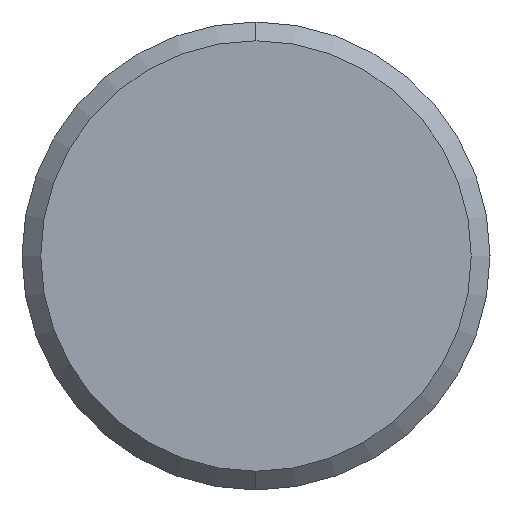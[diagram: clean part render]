
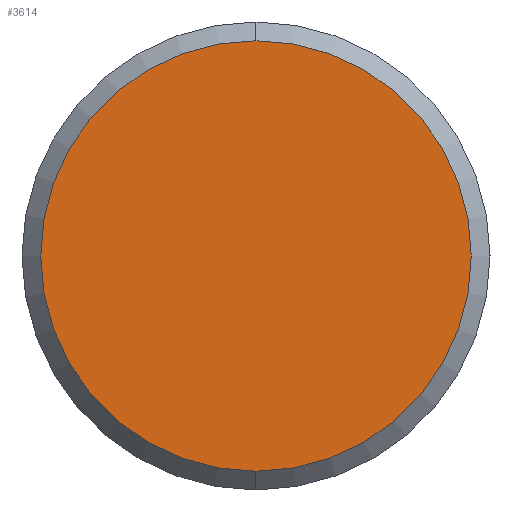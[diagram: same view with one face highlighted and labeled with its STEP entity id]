
A CAD part, left-side view. The second image highlights one B-rep face of the part: STEP entity #3614.
In plain terms, the highlighted planar face has unit normal (-1, 0, 0).
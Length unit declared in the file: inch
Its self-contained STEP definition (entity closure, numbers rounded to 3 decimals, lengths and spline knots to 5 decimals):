
#94 = CARTESIAN_POINT ( 'NONE',  ( 0., 0., 0. ) ) ;
#267 = CARTESIAN_POINT ( 'NONE',  ( 0., 0., 0. ) ) ;
#636 = VERTEX_POINT ( 'NONE', #1812 ) ;
#892 = AXIS2_PLACEMENT_3D ( 'NONE', #94, #2437, #3625 ) ;
#1008 = AXIS2_PLACEMENT_3D ( 'NONE', #267, #2373, #1456 ) ;
#1100 = EDGE_CURVE ( 'NONE', #636, #3777, #1631, .T. ) ;
#1102 = ORIENTED_EDGE ( 'NONE', *, *, #2259, .T. ) ;
#1305 = AXIS2_PLACEMENT_3D ( 'NONE', #1960, #3065, #2843 ) ;
#1308 = FACE_OUTER_BOUND ( 'NONE', #2075, .T. ) ;
#1456 = DIRECTION ( 'NONE',  ( 0., 0., 1. ) ) ;
#1631 = CIRCLE ( 'NONE', #1008, 0.17235 ) ;
#1812 = CARTESIAN_POINT ( 'NONE',  ( 0., 0., -0.17235 ) ) ;
#1820 = CIRCLE ( 'NONE', #892, 0.17235 ) ;
#1960 = CARTESIAN_POINT ( 'NONE',  ( 0., 0., 0. ) ) ;
#2075 = EDGE_LOOP ( 'NONE', ( #2872, #1102 ) ) ;
#2250 = PLANE ( 'NONE',  #1305 ) ;
#2259 = EDGE_CURVE ( 'NONE', #3777, #636, #1820, .T. ) ;
#2373 = DIRECTION ( 'NONE',  ( -1., 0., 0. ) ) ;
#2437 = DIRECTION ( 'NONE',  ( -1., 0., 0. ) ) ;
#2843 = DIRECTION ( 'NONE',  ( 0., 0., 1. ) ) ;
#2872 = ORIENTED_EDGE ( 'NONE', *, *, #1100, .T. ) ;
#3065 = DIRECTION ( 'NONE',  ( -1., 0., 0. ) ) ;
#3490 = CARTESIAN_POINT ( 'NONE',  ( 0., 0., 0.17235 ) ) ;
#3614 = ADVANCED_FACE ( 'NONE', ( #1308 ), #2250, .T. ) ;
#3625 = DIRECTION ( 'NONE',  ( 0., 0., 1. ) ) ;
#3777 = VERTEX_POINT ( 'NONE', #3490 ) ;
